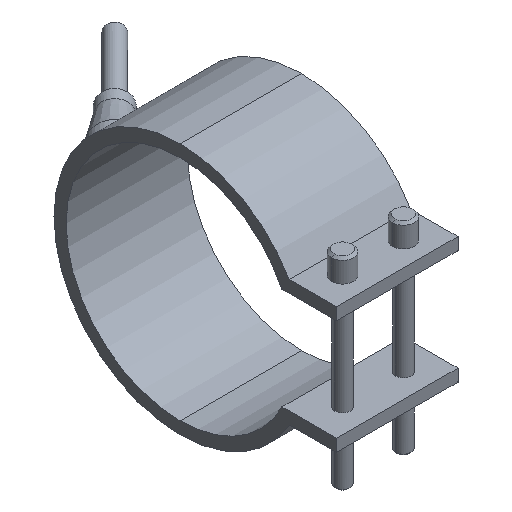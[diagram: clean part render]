
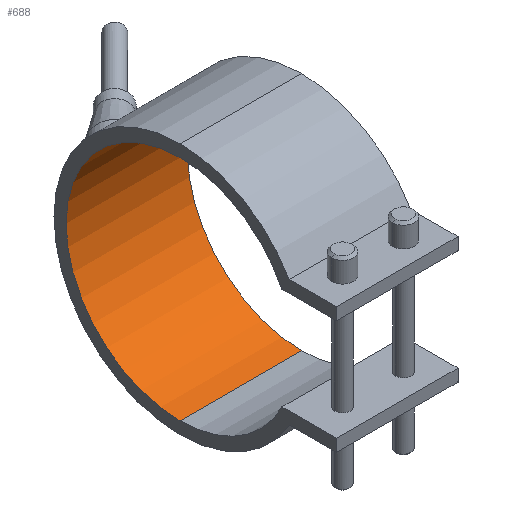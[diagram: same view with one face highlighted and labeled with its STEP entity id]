
A CAD part, isometric view. The second image highlights one B-rep face of the part: STEP entity #688.
In plain terms, the highlighted cylindrical face has radius 37.5 mm (diameter 75 mm), a partial arc.
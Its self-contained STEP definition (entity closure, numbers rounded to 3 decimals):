
#358=CARTESIAN_POINT('Vertex',(20.,0.,37.5)) ;
#363=CARTESIAN_POINT('Axis2P3D Location',(20.,0.,0.)) ;
#367=CARTESIAN_POINT('Vertex',(20.,0.,-37.5)) ;
#474=CARTESIAN_POINT('Vertex',(-20.,0.,-37.5)) ;
#477=CARTESIAN_POINT('Axis2P3D Location',(-20.,0.,0.)) ;
#481=CARTESIAN_POINT('Vertex',(-20.,0.,37.5)) ;
#660=CARTESIAN_POINT('Line Origine',(20.,0.,37.5)) ;
#672=CARTESIAN_POINT('Axis2P3D Location',(20.,0.,0.)) ;
#677=CARTESIAN_POINT('Line Origine',(20.,0.,-37.5)) ;
#364=DIRECTION('Axis2P3D Direction',(1.,0.,0.)) ;
#478=DIRECTION('Axis2P3D Direction',(1.,0.,0.)) ;
#661=DIRECTION('Vector Direction',(1.,0.,0.)) ;
#673=DIRECTION('Axis2P3D Direction',(1.,0.,-0.)) ;
#674=DIRECTION('Axis2P3D XDirection',(0.,0.,-1.)) ;
#678=DIRECTION('Vector Direction',(1.,0.,0.)) ;
#365=AXIS2_PLACEMENT_3D('Circle Axis2P3D',#363,#364,$) ;
#479=AXIS2_PLACEMENT_3D('Circle Axis2P3D',#477,#478,$) ;
#675=AXIS2_PLACEMENT_3D('Cylinder Axis2P3D',#672,#673,#674) ;
#683=ORIENTED_EDGE('',*,*,#369,.T.) ;
#684=ORIENTED_EDGE('',*,*,#664,.T.) ;
#685=ORIENTED_EDGE('',*,*,#483,.F.) ;
#686=ORIENTED_EDGE('',*,*,#681,.T.) ;
#662=VECTOR('Line Direction',#661,1.) ;
#679=VECTOR('Line Direction',#678,1.) ;
#688=ADVANCED_FACE('29075040',(#687),#676,.F.) ;
#366=CIRCLE('generated circle',#365,37.5) ;
#480=CIRCLE('generated circle',#479,37.5) ;
#676=CYLINDRICAL_SURFACE('generated cylinder',#675,37.5) ;
#369=EDGE_CURVE('',#368,#359,#366,.T.) ;
#483=EDGE_CURVE('',#475,#482,#480,.T.) ;
#664=EDGE_CURVE('',#359,#482,#663,.F.) ;
#681=EDGE_CURVE('',#475,#368,#680,.T.) ;
#682=EDGE_LOOP('',(#683,#684,#685,#686)) ;
#687=FACE_OUTER_BOUND('',#682,.T.) ;
#663=LINE('Line',#660,#662) ;
#680=LINE('Line',#677,#679) ;
#359=VERTEX_POINT('',#358) ;
#368=VERTEX_POINT('',#367) ;
#475=VERTEX_POINT('',#474) ;
#482=VERTEX_POINT('',#481) ;
